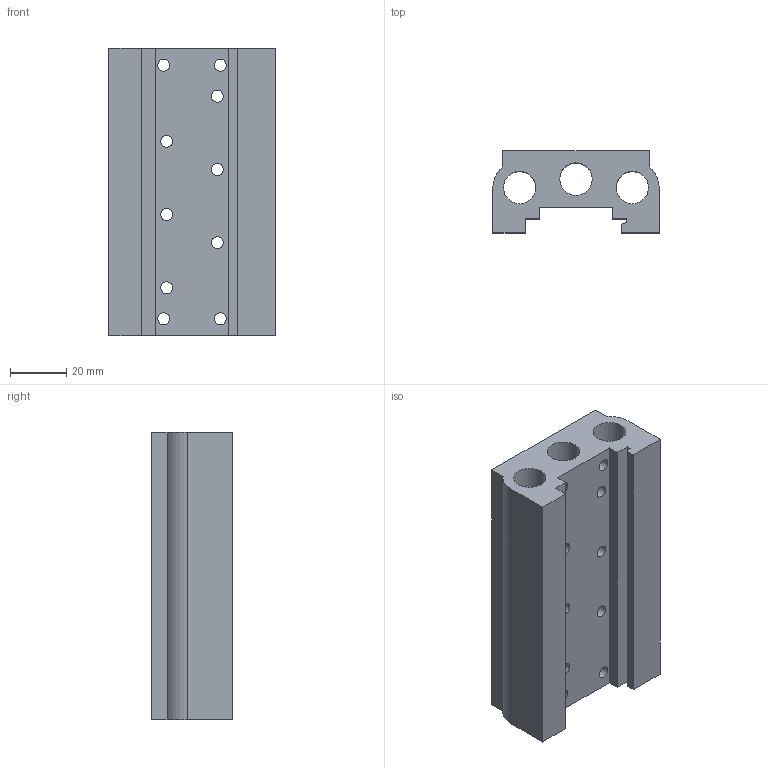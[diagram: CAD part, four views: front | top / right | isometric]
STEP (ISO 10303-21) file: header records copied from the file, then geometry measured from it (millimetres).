
FILE_DESCRIPTION((''),'2;1');
FILE_NAME('K:\A-Roberto\_Inventor\Rev.Librerie\TECNOECO\T488_ ##\T488_ 03.stp','2006-10-06T08:54:31',('rivolro1'),(''),'Autodesk Inventor 11','Autodesk Inventor 11','');
FILE_SCHEMA(('AUTOMOTIVE_DESIGN { 1 0 10303 214 1 1 1 1 }'));
Length unit declared in the file: millimetre
Products named in the file (1): T488_ 03
Bounding box: 59 x 29 x 102 mm (x, y, z)
Volume: 101773.6 mm3; surface area: 36772.2 mm2
Topology: 1 solids, 1 shells, 92 faces, 216 edges, 142 vertices
Faces by surface type: bspline 69, plane 18, cylinder 5
Full cylindrical faces by diameter (mm): 11.5 x3
Entity records: 3742 total; most frequent: CARTESIAN_POINT 1992, ORIENTED_EDGE 308, DIRECTION 276, EDGE_LOOP 202, EDGE_CURVE 154, VERTEX_POINT 130, AXIS2_PLACEMENT_3D 113, FACE_BOUND 110
